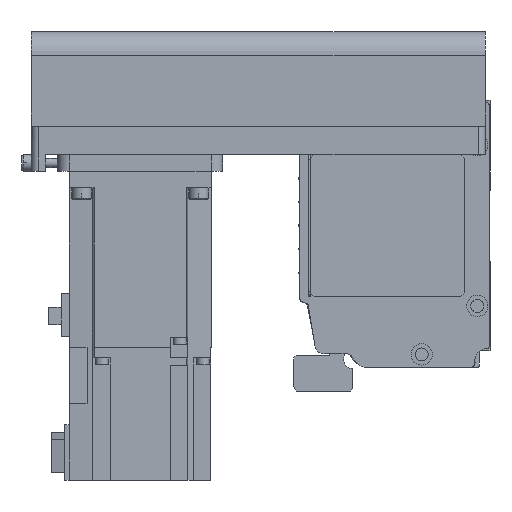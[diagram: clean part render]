
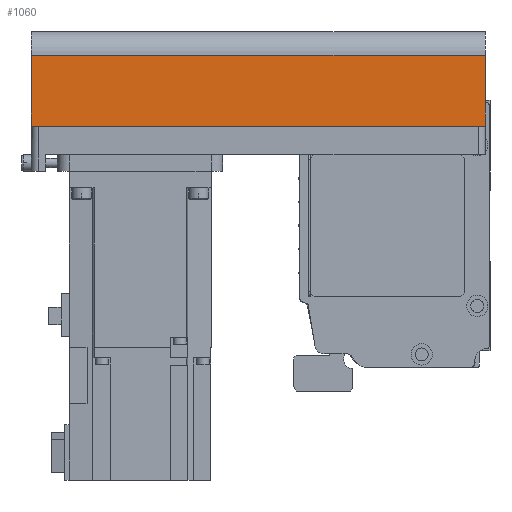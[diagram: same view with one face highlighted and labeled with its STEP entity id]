
A CAD part, left-side view. The second image highlights one B-rep face of the part: STEP entity #1060.
In plain terms, the highlighted planar face has unit normal (-1, 0, 0) as drawn and (0, 1, 0) by its records, which use the part's own axes.
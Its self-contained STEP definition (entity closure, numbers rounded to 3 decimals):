
#1060 = ADVANCED_FACE( '', ( #2641 ), #2642, .T. );
#2641 = FACE_OUTER_BOUND( '', #4913, .T. );
#2642 = PLANE( '', #4914 );
#4913 = EDGE_LOOP( '', ( #7772, #7773, #7774, #7775 ) );
#4914 = AXIS2_PLACEMENT_3D( '', #7776, #7777, #7778 );
#7772 = ORIENTED_EDGE( '', *, *, #13321, .F. );
#7773 = ORIENTED_EDGE( '', *, *, #13127, .F. );
#7774 = ORIENTED_EDGE( '', *, *, #13645, .T. );
#7775 = ORIENTED_EDGE( '', *, *, #13646, .T. );
#7776 = CARTESIAN_POINT( '', ( -192., 40., -42. ) );
#7777 = DIRECTION( '', ( 0., 1., 0. ) );
#7778 = DIRECTION( '', ( 0., 0., 1. ) );
#13127 = EDGE_CURVE( '', #15602, #15598, #15604, .T. );
#13321 = EDGE_CURVE( '', #15598, #15947, #15948, .T. );
#13645 = EDGE_CURVE( '', #15602, #16511, #16512, .T. );
#13646 = EDGE_CURVE( '', #16511, #15947, #16513, .T. );
#15598 = VERTEX_POINT( '', #19222 );
#15602 = VERTEX_POINT( '', #19227 );
#15604 = LINE( '', #19229, #19230 );
#15947 = VERTEX_POINT( '', #19674 );
#15948 = LINE( '', #19675, #19676 );
#16511 = VERTEX_POINT( '', #20433 );
#16512 = LINE( '', #20434, #20435 );
#16513 = LINE( '', #20436, #20437 );
#19222 = CARTESIAN_POINT( '', ( 0., 40., -42. ) );
#19227 = CARTESIAN_POINT( '', ( -192., 40., -42. ) );
#19229 = CARTESIAN_POINT( '', ( -192., 40., -42. ) );
#19230 = VECTOR( '', #23948, 1000. );
#19674 = CARTESIAN_POINT( '', ( 0., 40., -12.1 ) );
#19675 = CARTESIAN_POINT( '', ( 0., 40., -42. ) );
#19676 = VECTOR( '', #24200, 1000. );
#20433 = CARTESIAN_POINT( '', ( -192., 40., -12.1 ) );
#20434 = CARTESIAN_POINT( '', ( -192., 40., -42. ) );
#20435 = VECTOR( '', #24626, 1000. );
#20436 = CARTESIAN_POINT( '', ( -192., 40., -12.1 ) );
#20437 = VECTOR( '', #24627, 1000. );
#23948 = DIRECTION( '', ( 1., 0., 0. ) );
#24200 = DIRECTION( '', ( 0., 0., 1. ) );
#24626 = DIRECTION( '', ( 0., 0., 1. ) );
#24627 = DIRECTION( '', ( 1., 0., 0. ) );
